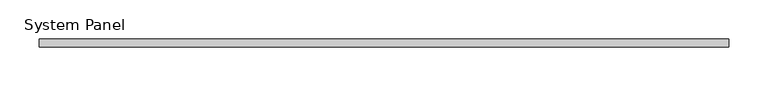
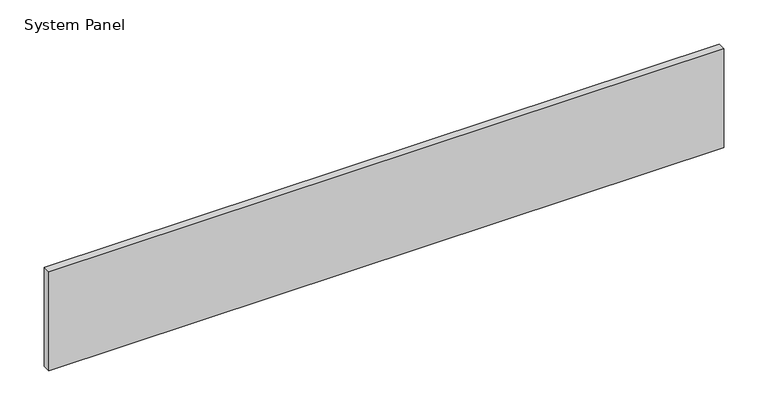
"""IFC4 building model written with IfcOpenShell, lengths in millimetres: plate geometry, System Panel : VACÍO."""

from ifc_helpers import new_model, si_unit, origin, origin_with_axes, place, context, project, spatial, polyline, outline, extrude, source, transform, mapped, element, save


def system_panel_a7d8eeab(model_context):
    return source(origin(), model_context, "Body", "SweptSolid", [
        extrude(outline(polyline([(439.0218271, -5.0), (-439.0218271, -5.0), (-439.0218271, 5.0), (439.0218271, 5.0), (439.0218271, -5.0)])), origin_with_axes(), (0.0, 0.0, 1.0), 136.0),
    ])


if __name__ == "__main__":
    model = new_model("IFC4")
    model_context = context("Model", 3, world=origin())
    ifc_project = project(units=[si_unit("LENGTHUNIT", "METRE", prefix="MILLI")], contexts=[model_context])
    site = spatial("IfcSite", under=ifc_project)
    building = spatial("IfcBuilding", under=site)
    placement = place(None, origin())
    system_panel_shape = system_panel_a7d8eeab(model_context)
    element("IfcPlate", 1, ObjectType="System Panel : VACÍO", at=placement, inside=building, context=model_context, shape_type="MappedRepresentation", body=[
        mapped(system_panel_shape, transform((0.0, 0.0, 0.0), x_axis=(1.0, 0.0, 0.0), y_axis=(0.0, 1.0, 0.0), z_axis=(0.0, 0.0, 1.0))),
    ])
    save(model, "model.ifc")
